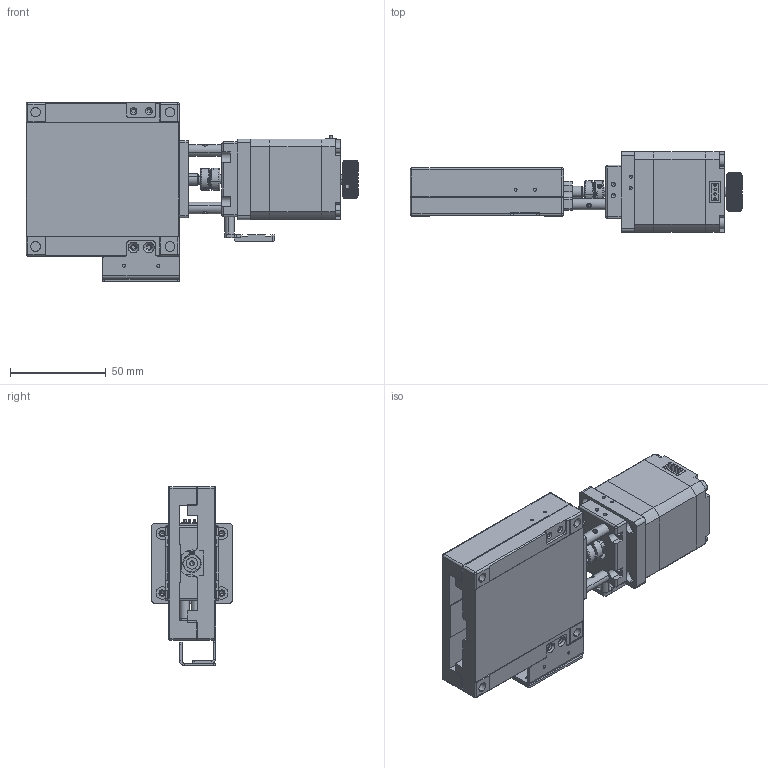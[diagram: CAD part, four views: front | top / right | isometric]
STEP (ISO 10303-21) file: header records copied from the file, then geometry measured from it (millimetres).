
FILE_DESCRIPTION (( 'STEP AP214' ), '1' );
FILE_NAME ('TXS8015E-L1-M42R.STEP', '2025-01-03T09:19:13', ( '' ), ( '' ), 'SwSTEP 2.0', 'SolidWorks 2020', '' );
FILE_SCHEMA (( 'AUTOMOTIVE_DESIGN' ));
Length unit declared in the file: millimetre
Products named in the file (1): TXS8015E-L1-M42R
Bounding box: 173 x 42 x 93.2 mm (x, y, z)
Volume: 246305 mm3; surface area: 86348 mm2
Topology: 41 solids, 41 shells, 2074 faces, 5513 edges, 3516 vertices
Faces by surface type: plane 858, cylinder 654, torus 372, cone 172, sphere 12, bspline 6
Entity records: 94907 total; most frequent: CARTESIAN_POINT 21757, ORIENTED_EDGE 10862, DIRECTION 9878, EDGE_CURVE 5431, AXIS2_PLACEMENT_3D 3868, VERTEX_POINT 3516, EDGE_LOOP 2291, LINE 2142
